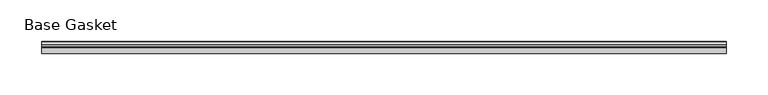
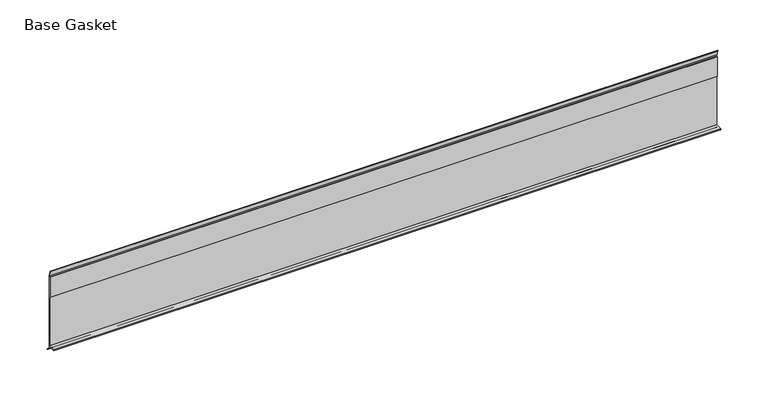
"""IFC4 building model written with IfcOpenShell, lengths in millimetres: furniture geometry, Gasket-Teknion-FHGB-AI_Healthcare-R2021 : Base Gasket."""

import ifcopenshell
import ifcopenshell.guid

model = None  # the IFC model being written
_history = None  # IfcOwnerHistory: only IFC2X3 demands one
_inside = {}  # id of a spatial element -> (the spatial element, [elements in it])
_under = {}  # id of a project, library or spatial element -> (it, [spatial elements below it])
_declared = {}  # id of a project -> (the project, [libraries it declares])
_typed = {}  # id of a type object -> (the type object, [elements of that type])
_made_of = {}  # id of a material, layer set ... -> (it, [elements and type objects made of it])


def new_model(schema):
    """Start an empty IFC model of exactly this schema.

    Asked for "IFC4X3", IfcOpenShell would pick the latest addendum, in which some entities
    have other attributes; the version numbers below select the first issue.
    IFC2X3 requires an IfcOwnerHistory on every rooted entity: one is made here for all.
    """
    global model, _history
    if schema == "IFC4X3":
        model = ifcopenshell.file(schema_version=(4, 3, 0, 0))
    else:
        model = ifcopenshell.file(schema=schema)
    _inside.clear()
    _under.clear()
    _declared.clear()
    _typed.clear()
    _made_of.clear()
    _history = None
    if model.schema == "IFC2X3":
        org = make("IfcOrganization", Name="unknown")
        user = make(
            "IfcPersonAndOrganization",
            ThePerson=make("IfcPerson", FamilyName="unknown"),
            TheOrganization=org,
        )
        app = make(
            "IfcApplication",
            ApplicationDeveloper=org,
            Version="unknown",
            ApplicationFullName="unknown",
            ApplicationIdentifier="unknown",
        )
        _history = make(
            "IfcOwnerHistory",
            OwningUser=user,
            OwningApplication=app,
            ChangeAction="ADDED",
            CreationDate=0,
        )
    return model


def make(cls, **values):
    """One entity of the class cls with the attributes given. An attribute that is None is left unset."""
    return model.create_entity(
        cls, **{name: value for name, value in values.items() if value is not None}
    )


def rooted(cls, **values):
    """An entity with a GlobalId (a new one), such as an element, a storey or a relation."""
    return make(cls, GlobalId=ifcopenshell.guid.new(), OwnerHistory=_history, **values)


def si_unit(unit_type, name, prefix=None):
    """IfcSIUnit, for example si_unit("LENGTHUNIT", "METRE", prefix="MILLI")."""
    return make("IfcSIUnit", UnitType=unit_type, Prefix=prefix, Name=name)


def assignment(units):
    """IfcUnitAssignment: the units of a project."""
    return None if units is None else make("IfcUnitAssignment", Units=units)


def point(xyz):
    """IfcCartesianPoint."""
    return None if xyz is None else make("IfcCartesianPoint", Coordinates=xyz)


def direction(xyz):
    """IfcDirection."""
    return None if xyz is None else make("IfcDirection", DirectionRatios=xyz)


def frame(location, z_axis=None, x_axis=None):
    """IfcAxis2Placement3D, a coordinate frame: its origin and axes. An axis left out is left unset."""
    return make(
        "IfcAxis2Placement3D",
        Location=point(location),
        Axis=direction(z_axis),
        RefDirection=direction(x_axis),
    )


def origin():
    """The frame at (0, 0, 0) with its axes left unset."""
    return frame((0.0, 0.0, 0.0))


def place(relative_to, where):
    """IfcLocalPlacement: puts the frame where relative to a parent placement (None: the world)."""
    return make(
        "IfcLocalPlacement", PlacementRelTo=relative_to, RelativePlacement=where
    )


def context(
    kind, dimensions, precision=None, world=None, true_north=None, identifier=None
):
    """IfcGeometricRepresentationContext, for example the 3D "Model" context."""
    return make(
        "IfcGeometricRepresentationContext",
        ContextIdentifier=identifier,
        ContextType=kind,
        CoordinateSpaceDimension=dimensions,
        Precision=precision,
        WorldCoordinateSystem=world,
        TrueNorth=true_north,
    )


def project(units=None, contexts=None):
    """IfcProject with its units and contexts."""
    return rooted(
        "IfcProject",
        Name="project",
        RepresentationContexts=contexts,
        UnitsInContext=assignment(units),
    )


def spatial(cls, under=None, at=None, **own):
    """A site, building, storey or space (cls), placed at a placement, below another one or the project."""
    s = rooted(cls, ObjectPlacement=at, **own)
    if under is not None:
        _under.setdefault(under.id(), (under, []))[1].append(s)
    return s


def polyline(points):
    """IfcPolyline through the points."""
    return make("IfcPolyline", Points=[point(p) for p in points])


def outline(outer, holes=None, kind="AREA"):
    """IfcArbitraryClosedProfileDef: a profile drawn as a closed curve; with holes, ...WithVoids."""
    if holes is None:
        return make("IfcArbitraryClosedProfileDef", ProfileType=kind, OuterCurve=outer)
    return make(
        "IfcArbitraryProfileDefWithVoids",
        ProfileType=kind,
        OuterCurve=outer,
        InnerCurves=holes,
    )


def extrude(swept, where, along, depth):
    """IfcExtrudedAreaSolid: the profile swept, set in the frame where, extruded along a direction by depth."""
    return make(
        "IfcExtrudedAreaSolid",
        SweptArea=swept,
        Position=where,
        ExtrudedDirection=direction(along),
        Depth=depth,
    )


def shape(context_of_items, identifier, shape_type, items):
    """IfcShapeRepresentation: the items that make up one representation, for example the "Body"."""
    return make(
        "IfcShapeRepresentation",
        ContextOfItems=context_of_items,
        RepresentationIdentifier=identifier,
        RepresentationType=shape_type,
        Items=items,
    )


def source(mapping_origin, context_of_items, identifier, shape_type, items):
    """IfcRepresentationMap: a shape defined once, which mapped items show again and again."""
    return make(
        "IfcRepresentationMap",
        MappingOrigin=mapping_origin,
        MappedRepresentation=shape(context_of_items, identifier, shape_type, items),
    )


def transform(
    local_origin,
    x_axis=None,
    y_axis=None,
    z_axis=None,
    scale=None,
    scale2=None,
    scale3=None,
    uniform=True,
):
    """IfcCartesianTransformationOperator3D, or its non-uniform kind. x_axis, y_axis, z_axis: its Axis1, 2, 3."""
    if uniform:
        return make(
            "IfcCartesianTransformationOperator3D",
            Axis1=direction(x_axis),
            Axis2=direction(y_axis),
            LocalOrigin=point(local_origin),
            Scale=scale,
            Axis3=direction(z_axis),
        )
    return make(
        "IfcCartesianTransformationOperator3DnonUniform",
        Axis1=direction(x_axis),
        Axis2=direction(y_axis),
        LocalOrigin=point(local_origin),
        Scale=scale,
        Axis3=direction(z_axis),
        Scale2=scale2,
        Scale3=scale3,
    )


def mapped(mapping_source, mapping_target):
    """IfcMappedItem: shows the shape of a source again, moved by a transform."""
    return make(
        "IfcMappedItem", MappingSource=mapping_source, MappingTarget=mapping_target
    )


def made_of(thing, what):
    """Note that an element or type object is made of a material, layer set ...; save() writes the relation."""
    if what is not None:
        _made_of.setdefault(what.id(), (what, []))[1].append(thing)
    return thing


def element(
    cls,
    number,
    at=None,
    inside=None,
    cuts=None,
    type_object=None,
    material=None,
    context=None,
    identifier="Body",
    shape_type=None,
    held_by="IfcProductDefinitionShape",
    body=None,
    shapes=None,
    **own,
):
    """One element of the class cls, such as IfcWall. Its Tag is "e" and its number.

    at: its placement. inside: the storey or other place that contains it. cuts: it is an
    opening in that element (IfcRelVoidsElement). A single representation is given by context,
    identifier, shape_type and body (its items); several are given by shapes. held_by: the class
    of the entity that holds the representations. save() writes the other relations.
    """
    e = rooted(cls, Tag="e%d" % number, ObjectPlacement=at, **own)
    if body is not None:
        shapes = [shape(context, identifier, shape_type, body)]
    if shapes is not None:
        e.Representation = make(held_by, Representations=shapes)
    if inside is not None:
        _inside.setdefault(inside.id(), (inside, []))[1].append(e)
    if cuts is not None:
        rooted(
            "IfcRelVoidsElement", RelatingBuildingElement=cuts, RelatedOpeningElement=e
        )
    if type_object is not None:
        _typed.setdefault(type_object.id(), (type_object, []))[1].append(e)
    return made_of(e, material)


def aggregate(whole, parts):
    """IfcRelAggregates: a whole, such as a stair, and the parts it consists of."""
    return rooted("IfcRelAggregates", RelatingObject=whole, RelatedObjects=parts)


def save(model, path):
    """Write the relations noted so far, then the file.

    IfcRelAggregates (storeys below a building ...), IfcRelContainedInSpatialStructure (elements
    in a storey), IfcRelDefinesByType, IfcRelAssociatesMaterial and IfcRelDeclares: one each for
    every whole, place, type object, material and project.
    """
    for whole, parts in _under.values():
        aggregate(whole, parts)
    for where, things in _inside.values():
        rooted(
            "IfcRelContainedInSpatialStructure",
            RelatedElements=things,
            RelatingStructure=where,
        )
    for kind, things in _typed.values():
        rooted("IfcRelDefinesByType", RelatedObjects=things, RelatingType=kind)
    for what, things in _made_of.values():
        rooted("IfcRelAssociatesMaterial", RelatedObjects=things, RelatingMaterial=what)
    for by, libraries in _declared.values():
        rooted("IfcRelDeclares", RelatingContext=by, RelatedDefinitions=libraries)
    model.write(path)


def base_gasket_4ed9dcc4(model_context):
    return source(origin(), model_context, "Body", "SweptSolid", [
        extrude(outline(polyline([(3.7283812, 98.4568417), (3.7283812, 4.3498477), (7.4222115, 0.6560174), (7.8482342, 0.0), (6.8281054, 0.3520979), (2.2043812, 4.3498477), (2.1334222, 6.3818476), (-6.2405171, 6.3818476), (-6.2405171, 7.9398773), (2.2043812, 7.9398773), (2.2043812, 71.4693447), (1.4106313, 71.4693447), (1.4106313, 96.8693477), (2.2043812, 96.8693477), (2.2043812, 98.4568417), (0.6755308, 104.4162708), (0.6755308, 105.2002997), (1.1891543, 104.587663), (3.7283812, 98.4568417)])), frame((-1527.8982117, 0.0, 0.0), z_axis=(1.0, 0.0, 0.0), x_axis=(0.0, 1.0, 0.0)), (0.0, 0.0, 1.0), 818.3537611),
    ])


if __name__ == "__main__":
    model = new_model("IFC4")
    model_context = context("Model", 3, world=origin())
    ifc_project = project(units=[si_unit("LENGTHUNIT", "METRE", prefix="MILLI")], contexts=[model_context])
    site = spatial("IfcSite", under=ifc_project)
    building = spatial("IfcBuilding", under=site)
    placement = place(None, origin())
    base_gasket_shape = base_gasket_4ed9dcc4(model_context)
    element("IfcFurniture", 1, ObjectType="Gasket-Teknion-FHGB-AI_Healthcare-R2021 : Base Gasket", at=placement, inside=building, context=model_context, shape_type="MappedRepresentation", body=[
        mapped(base_gasket_shape, transform((0.0, 0.0, 0.0), x_axis=(1.0, 0.0, 0.0), y_axis=(0.0, 1.0, 0.0), z_axis=(0.0, 0.0, 1.0))),
    ])
    save(model, "model.ifc")
